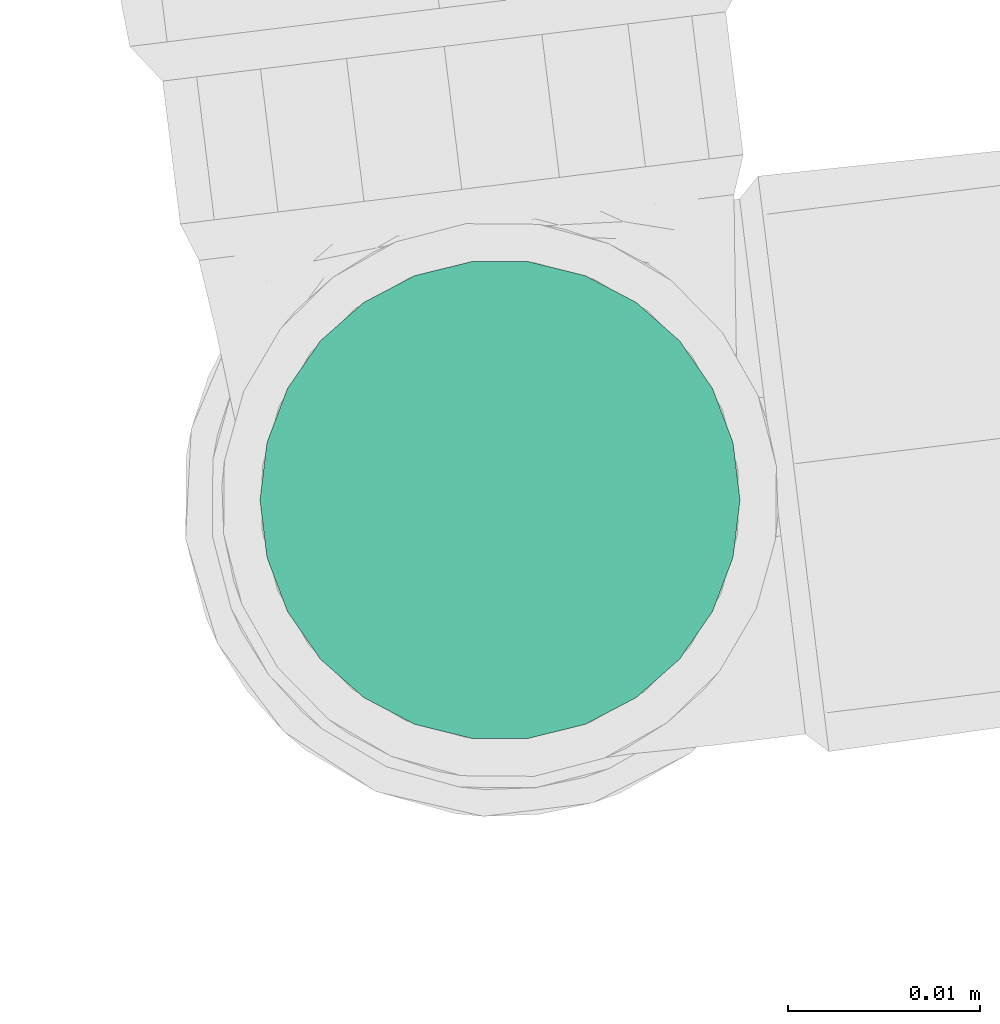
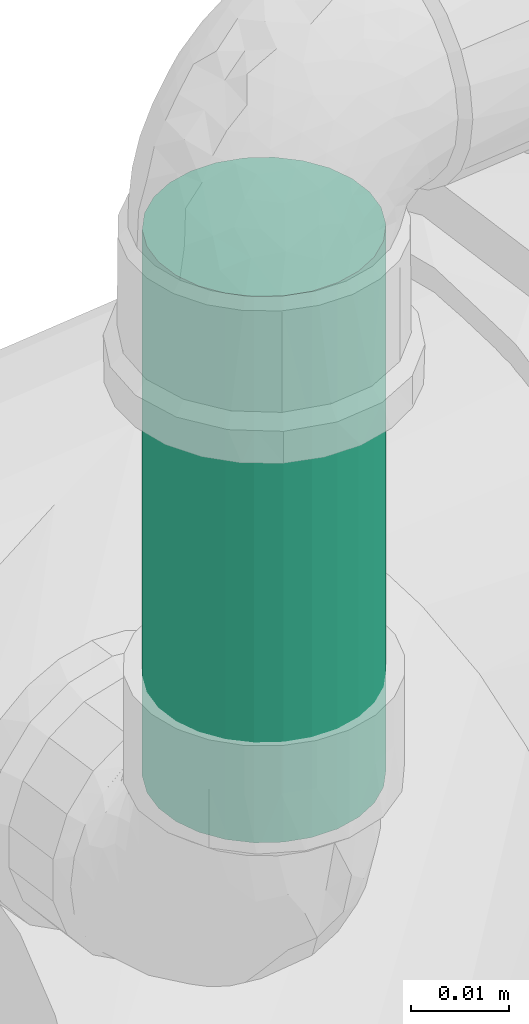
# One storey, part 71 of 97: 1 flow segment.
"""IFC2X3 building model written with IfcOpenShell, lengths in centimetres."""

from ifc_helpers import new_model, entity, si_unit, converted_unit, derived_unit, direction, frame, origin, origin_2d_with_axis, place, context, subcontext, project, spatial, circle, extrude, type_object, element, save


model = new_model("IFC2X3")

# Units and contexts
model_context = context("Model", 3, precision=0.001, world=origin(), true_north=direction((6.12303176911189e-17, 1.0)))
body_context = subcontext(model_context, "Body", "Model", "MODEL_VIEW")
ifc_project = project(units=[si_unit("LENGTHUNIT", "METRE", prefix="CENTI"), si_unit("AREAUNIT", "SQUARE_METRE"), si_unit("VOLUMEUNIT", "CUBIC_METRE"), converted_unit("PLANEANGLEUNIT", "DEGREE", entity("IfcRatioMeasure", 0.0174532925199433), si_unit("PLANEANGLEUNIT", "RADIAN"), dimensions=[0, 0, 0, 0, 0, 0, 0]), si_unit("MASSUNIT", "GRAM", prefix="KILO"), derived_unit("MASSDENSITYUNIT", [(si_unit("MASSUNIT", "GRAM", prefix="KILO"), 1), (si_unit("LENGTHUNIT", "METRE"), -3)]), derived_unit("MOMENTOFINERTIAUNIT", [(si_unit("LENGTHUNIT", "METRE"), 4)]), si_unit("TIMEUNIT", "SECOND"), si_unit("FREQUENCYUNIT", "HERTZ"), si_unit("THERMODYNAMICTEMPERATUREUNIT", "DEGREE_CELSIUS"), derived_unit("THERMALTRANSMITTANCEUNIT", [(si_unit("MASSUNIT", "GRAM", prefix="KILO"), 1), (si_unit("THERMODYNAMICTEMPERATUREUNIT", "KELVIN"), -1), (si_unit("TIMEUNIT", "SECOND"), -3)]), derived_unit("VOLUMETRICFLOWRATEUNIT", [(si_unit("LENGTHUNIT", "METRE"), 3), (si_unit("TIMEUNIT", "SECOND"), -1)]), si_unit("ELECTRICCURRENTUNIT", "AMPERE"), si_unit("ELECTRICVOLTAGEUNIT", "VOLT"), si_unit("POWERUNIT", "WATT"), si_unit("FORCEUNIT", "NEWTON", prefix="KILO"), si_unit("ILLUMINANCEUNIT", "LUX"), si_unit("LUMINOUSFLUXUNIT", "LUMEN"), si_unit("LUMINOUSINTENSITYUNIT", "CANDELA"), derived_unit("USERDEFINED", [(si_unit("MASSUNIT", "GRAM", prefix="KILO"), -1), (si_unit("LENGTHUNIT", "METRE"), -2), (si_unit("TIMEUNIT", "SECOND"), 3), (si_unit("LUMINOUSFLUXUNIT", "LUMEN"), 1)]), derived_unit("LINEARVELOCITYUNIT", [(si_unit("LENGTHUNIT", "METRE"), 1), (si_unit("TIMEUNIT", "SECOND"), -1)]), si_unit("PRESSUREUNIT", "PASCAL"), derived_unit("USERDEFINED", [(si_unit("LENGTHUNIT", "METRE"), -2), (si_unit("MASSUNIT", "GRAM", prefix="KILO"), 1), (si_unit("TIMEUNIT", "SECOND"), -2)]), derived_unit("LINEARFORCEUNIT", [(si_unit("MASSUNIT", "GRAM", prefix="KILO"), 1), (si_unit("LENGTHUNIT", "METRE"), 1), (si_unit("TIMEUNIT", "SECOND"), -2), (si_unit("LENGTHUNIT", "METRE"), -1)]), derived_unit("PLANARFORCEUNIT", [(si_unit("MASSUNIT", "GRAM", prefix="KILO"), 1), (si_unit("LENGTHUNIT", "METRE"), 1), (si_unit("TIMEUNIT", "SECOND"), -2), (si_unit("LENGTHUNIT", "METRE"), -2)])], contexts=[model_context])

# Site, building, storey
site_placement = place(None, origin())
site = spatial("IfcSite", under=ifc_project, at=site_placement, Name="Default", CompositionType="ELEMENT")
building_placement = place(site_placement, origin())
building = spatial("IfcBuilding", under=site, at=building_placement, Name="HIDROSSANITÁRIO", CompositionType="ELEMENT")
storey_placement = place(building_placement, frame((0.0, 0.0, -260.0)))
storey = spatial("IfcBuildingStorey", under=building, at=storey_placement, Name="TÉRREO-HID", CompositionType="ELEMENT", Elevation=-260.0)

# Flow segment
pipe_segment_type = type_object("IfcPipeSegmentType", Name="Tipos de tubos:Tubo Marrom - Água Fria - Soldável", PredefinedType="NOTDEFINED")
flow_segment_placement = place(storey_placement, origin())
element("IfcFlowSegment", 1, at=flow_segment_placement, inside=storey, type_object=pipe_segment_type, Name="Tipos de tubos:Tubo Marrom - Água Fria - Soldável", ObjectType="Tipos de tubos:Tubo Marrom - Água Fria - Soldável", context=body_context, shape_type="SweptSolid", body=[
    extrude(circle(Radius=1.25, at=origin_2d_with_axis()), frame((-1606.19150468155, 2907.56411383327, 21.63)), (0.0, 0.0, 1.0), 6.83000000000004),
])

save(model, "model.ifc")
